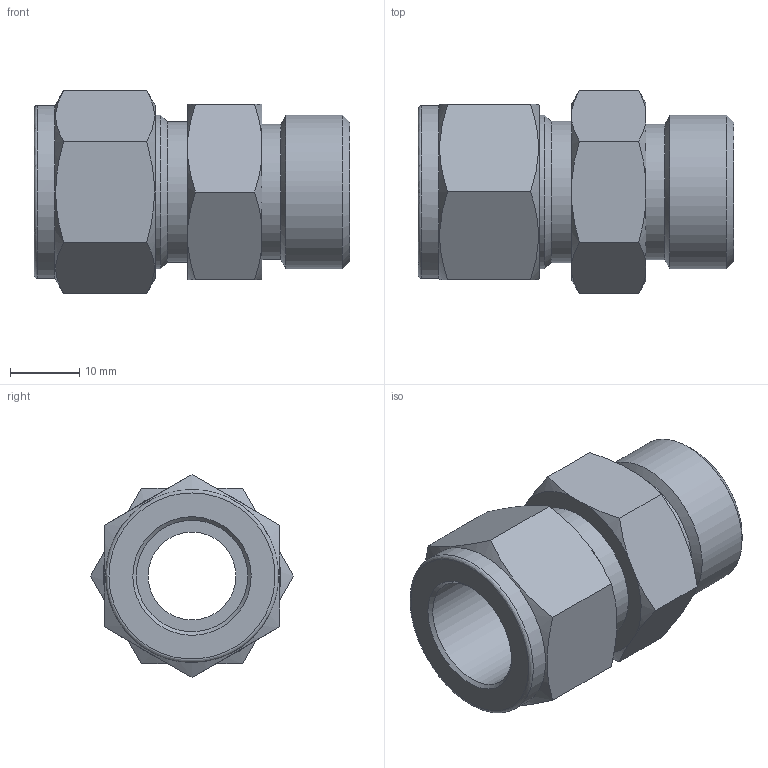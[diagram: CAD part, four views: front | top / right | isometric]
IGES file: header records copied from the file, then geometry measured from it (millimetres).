
Global section: file name: SSMC-10-10U; native system: Autodesk Inventor 2016; preprocessor: unknown; author: DESIGNPC2; date: 20160123.163701; units: millimetre
Bounding box: 45.63 x 29.33 x 29.33 mm (x, y, z)
Volume: 14007.4 mm3; surface area: 6940.6 mm2
Topology: 1 solids, 1 shells, 45 faces, 128 edges, 89 vertices
Faces by surface type: bspline 45
